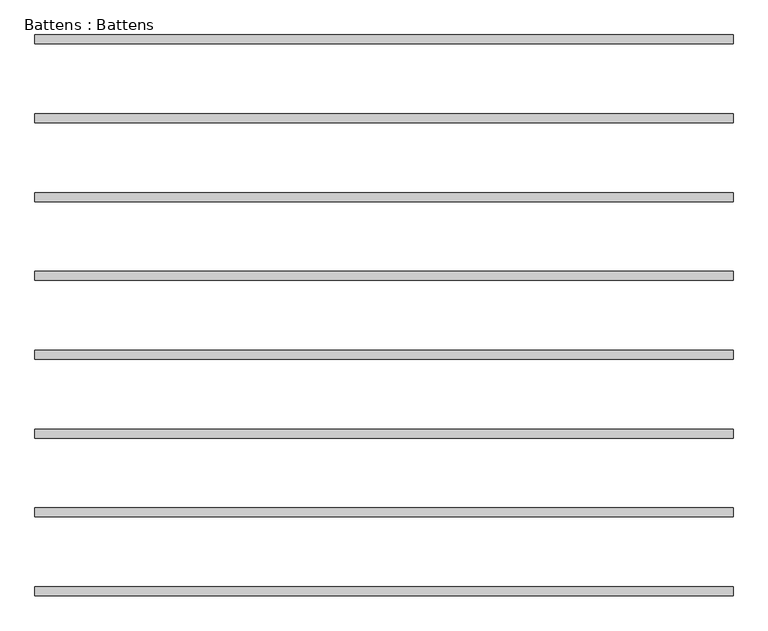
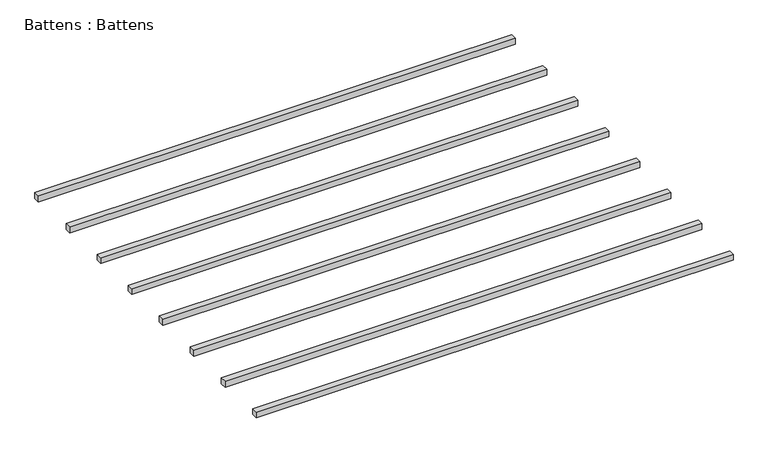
"""IFC4 building model written with IfcOpenShell, lengths in millimetres: proxy geometry, Battens : Battens."""

from ifc_helpers import new_model, si_unit, origin, origin_with_axes, place, context, project, spatial, polyline, outline, extrude, source, transform, mapped, element, save


def battens_battens_79cefbce(model_context):
    return source(origin(), model_context, "Body", "SweptSolid", [
        extrude(outline(polyline([(3100.0, -2430.0), (3100.0, -2470.0), (0.0, -2470.0), (0.0, -2430.0), (3100.0, -2430.0)])), origin_with_axes(), (0.0, 0.0, 1.0), 40.0),
        extrude(outline(polyline([(3100.0, -2080.0), (3100.0, -2120.0), (0.0, -2120.0), (0.0, -2080.0), (3100.0, -2080.0)])), origin_with_axes(), (0.0, 0.0, 1.0), 40.0),
        extrude(outline(polyline([(3100.0, -1730.0), (3100.0, -1770.0), (0.0, -1770.0), (0.0, -1730.0), (3100.0, -1730.0)])), origin_with_axes(), (0.0, 0.0, 1.0), 40.0),
        extrude(outline(polyline([(3100.0, -1380.0), (3100.0, -1420.0), (0.0, -1420.0), (0.0, -1380.0), (3100.0, -1380.0)])), origin_with_axes(), (0.0, 0.0, 1.0), 40.0),
        extrude(outline(polyline([(3100.0, -1030.0), (3100.0, -1070.0), (0.0, -1070.0), (0.0, -1030.0), (3100.0, -1030.0)])), origin_with_axes(), (0.0, 0.0, 1.0), 40.0),
        extrude(outline(polyline([(3100.0, -680.0), (3100.0, -720.0), (0.0, -720.0), (0.0, -680.0), (3100.0, -680.0)])), origin_with_axes(), (0.0, 0.0, 1.0), 40.0),
        extrude(outline(polyline([(3100.0, -330.0), (3100.0, -370.0), (0.0, -370.0), (0.0, -330.0), (3100.0, -330.0)])), origin_with_axes(), (0.0, 0.0, 1.0), 40.0),
        extrude(outline(polyline([(3100.0, 20.0), (3100.0, -20.0), (0.0, -20.0), (0.0, 20.0), (3100.0, 20.0)])), origin_with_axes(), (0.0, 0.0, 1.0), 40.0),
    ])


if __name__ == "__main__":
    model = new_model("IFC4")
    model_context = context("Model", 3, world=origin())
    ifc_project = project(units=[si_unit("LENGTHUNIT", "METRE", prefix="MILLI")], contexts=[model_context])
    site = spatial("IfcSite", under=ifc_project)
    building = spatial("IfcBuilding", under=site)
    placement = place(None, origin())
    battens_battens_shape = battens_battens_79cefbce(model_context)
    element("IfcBuildingElementProxy", 1, Name="Battens : Battens", ObjectType="Battens : Battens", at=placement, inside=building, context=model_context, shape_type="MappedRepresentation", body=[
        mapped(battens_battens_shape, transform((0.0, 0.0, 0.0), x_axis=(1.0, 0.0, 0.0), y_axis=(0.0, 1.0, 0.0), z_axis=(0.0, 0.0, 1.0))),
    ])
    save(model, "model.ifc")
